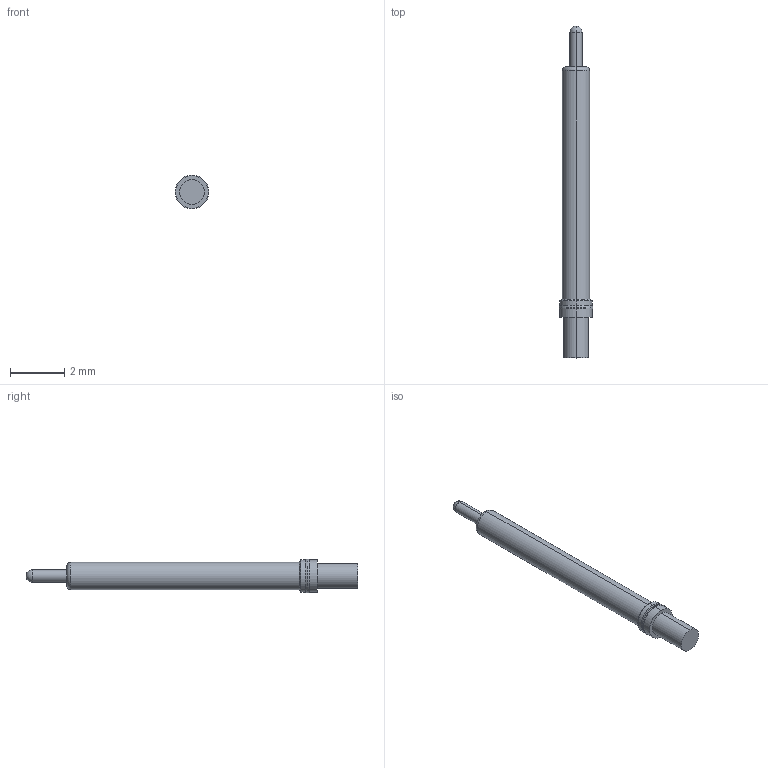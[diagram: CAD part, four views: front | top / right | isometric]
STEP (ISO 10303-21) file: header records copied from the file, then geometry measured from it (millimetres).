
FILE_DESCRIPTION((''),'2;1');
FILE_NAME('PRT0032','2023-05-26T11:56:58',('USER'),(''),'CREO PARAMETRIC BY PTC INC, 2020154','CREO PARAMETRIC BY PTC INC, 2020154','');
FILE_SCHEMA(('CONFIG_CONTROL_DESIGN'));
Length unit declared in the file: millimetre
Products named in the file (1): PRT0032
Bounding box: 1.24 x 12.2 x 1.24 mm (x, y, z)
Volume: 8.6 mm3; surface area: 37.5 mm2
Topology: 1 solids, 1 shells, 25 faces, 50 edges, 29 vertices
Faces by surface type: cylinder 12, plane 5, cone 4, torus 2, sphere 2
Entity records: 680 total; most frequent: DIRECTION 130, CARTESIAN_POINT 102, ORIENTED_EDGE 96, AXIS2_PLACEMENT_3D 57, EDGE_CURVE 48, CIRCLE 32, VERTEX_POINT 29, EDGE_LOOP 29
